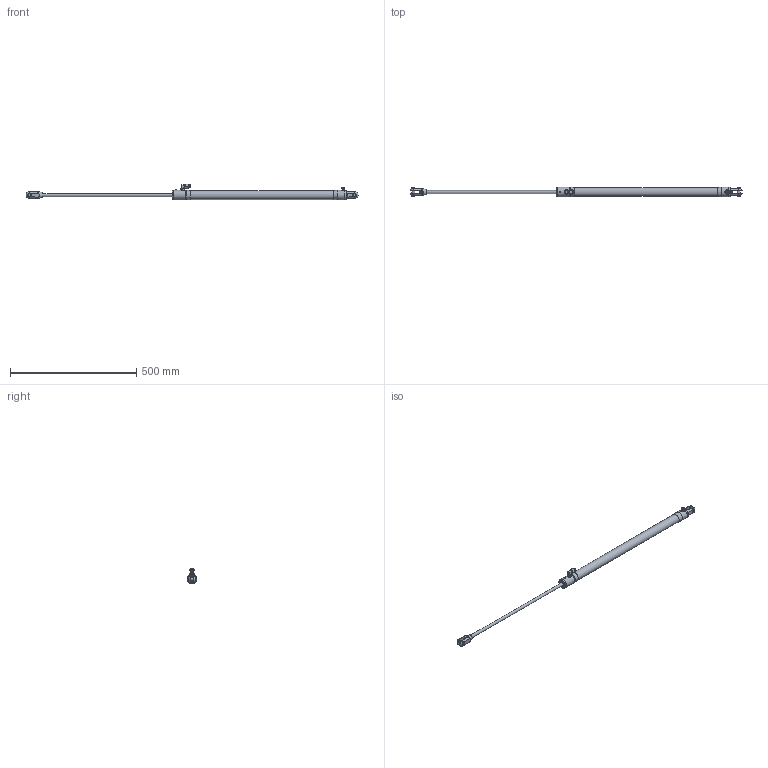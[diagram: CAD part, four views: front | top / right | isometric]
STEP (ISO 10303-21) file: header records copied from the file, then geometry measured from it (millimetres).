
FILE_DESCRIPTION(/* description */ (''),/* implementation_level */ '2;1');
FILE_NAME(/* name */ 'Q:\AA BRAND HYDRAULICS\HYDRAULICS FAMILY DIRECTORY\HYDRAULICS\CYLINDERS\RAMS\ALUMINIUM - STANDARD SINGLE ACTING (-0006 To -0260)\RSA-0006-S0510-NP-71\RSA-0006-S0510-NP-71 (Open).stp',/* time_stamp */ '2017-11-29T12:45:38+00:00',/* author */ ('Lorena'),/* organization */ (''),/* preprocessor_version */ 'ST-DEVELOPER v16.13',/* originating_system */ 'Autodesk Inventor 2018',/* authorisation */ '');
FILE_SCHEMA (('AUTOMOTIVE_DESIGN { 1 0 10303 214 3 1 1 }'));
Products named in the file (1): RSA-0006-S0510-NP-71 (Open)
Bounding box: 1314.56 x 38.2 x 62.52 mm (x, y, z)
Volume: 802562.1 mm3; surface area: 116926.2 mm2
Topology: 1 solids, 4 shells, 1616 faces, 4281 edges, 2824 vertices
Faces by surface type: plane 895, bspline 574, cylinder 83, cone 56, torus 4, sphere 4
Full cylindrical faces by diameter (mm): 3.3 x2, 3.5 x1, 4 x3, 4.4 x1, 4.5 x2, 5 x2, 7 x1, 7.728 x1, 8 x2, 8.728 x1, 8.8 x2, 9 x1, 9.728 x2, 10 x2, 11.11 x3, 11.8 x2, 12 x2, 13 x1, 13.887 x2, 15.1 x2, 35.2 x1, 38.2 x4
Entity records: 56689 total; most frequent: CARTESIAN_POINT 19400, ORIENTED_EDGE 8310, DIRECTION 5297, EDGE_CURVE 4155, VERTEX_POINT 2786, LINE 2683, VECTOR 2683, EDGE_LOOP 1858
